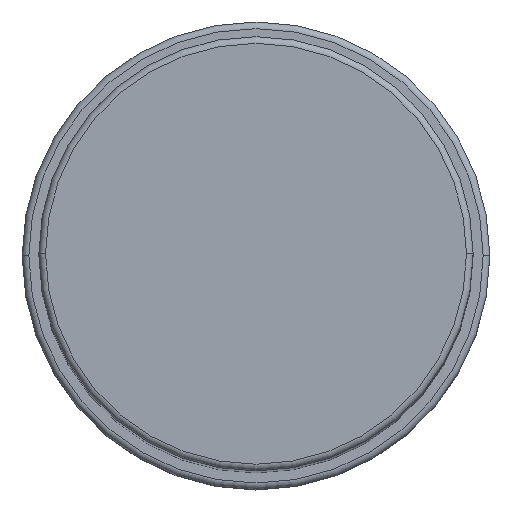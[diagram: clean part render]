
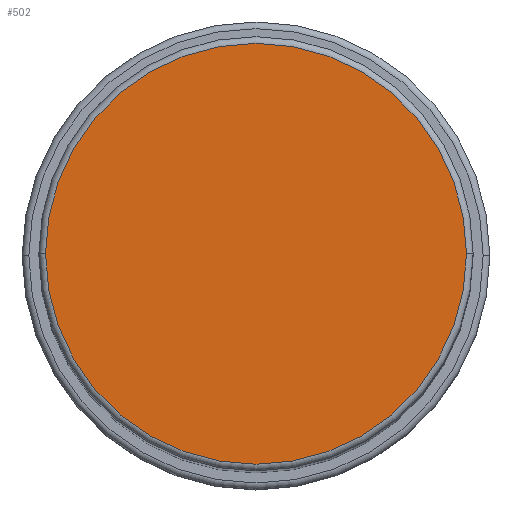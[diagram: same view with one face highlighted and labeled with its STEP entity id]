
A CAD part, top view. The second image highlights one B-rep face of the part: STEP entity #502.
In plain terms, the highlighted planar face has unit normal (0, 0, 1).
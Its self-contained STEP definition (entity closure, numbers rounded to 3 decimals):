
#11 = CIRCLE ( 'NONE', #439, 31.5 ) ;
#436 = EDGE_CURVE ( 'NONE', #1415, #1438, #1300, .T. ) ;
#439 = AXIS2_PLACEMENT_3D ( 'NONE', #1681, #1410, #1279 ) ;
#483 = DIRECTION ( 'NONE',  ( 1., 0., 0. ) ) ;
#502 = ADVANCED_FACE ( 'NONE', ( #1475 ), #762, .T. ) ;
#571 = AXIS2_PLACEMENT_3D ( 'NONE', #1555, #1169, #1157 ) ;
#762 = PLANE ( 'NONE',  #1281 ) ;
#968 = EDGE_LOOP ( 'NONE', ( #1405, #1216 ) ) ;
#1039 = DIRECTION ( 'NONE',  ( 0., 0., 1. ) ) ;
#1157 = DIRECTION ( 'NONE',  ( 1., 0., 0. ) ) ;
#1167 = CARTESIAN_POINT ( 'NONE',  ( -31.5, 0., 188. ) ) ;
#1169 = DIRECTION ( 'NONE',  ( 0., 0., 1. ) ) ;
#1205 = EDGE_CURVE ( 'NONE', #1438, #1415, #11, .T. ) ;
#1216 = ORIENTED_EDGE ( 'NONE', *, *, #436, .T. ) ;
#1279 = DIRECTION ( 'NONE',  ( 1., 0., 0. ) ) ;
#1281 = AXIS2_PLACEMENT_3D ( 'NONE', #1450, #1039, #483 ) ;
#1300 = CIRCLE ( 'NONE', #571, 31.5 ) ;
#1405 = ORIENTED_EDGE ( 'NONE', *, *, #1205, .T. ) ;
#1410 = DIRECTION ( 'NONE',  ( 0., 0., 1. ) ) ;
#1415 = VERTEX_POINT ( 'NONE', #1167 ) ;
#1438 = VERTEX_POINT ( 'NONE', #1700 ) ;
#1450 = CARTESIAN_POINT ( 'NONE',  ( 0., 0., 188. ) ) ;
#1475 = FACE_OUTER_BOUND ( 'NONE', #968, .T. ) ;
#1555 = CARTESIAN_POINT ( 'NONE',  ( 0., 0., 188. ) ) ;
#1681 = CARTESIAN_POINT ( 'NONE',  ( 0., 0., 188. ) ) ;
#1700 = CARTESIAN_POINT ( 'NONE',  ( 31.5, 0., 188. ) ) ;
